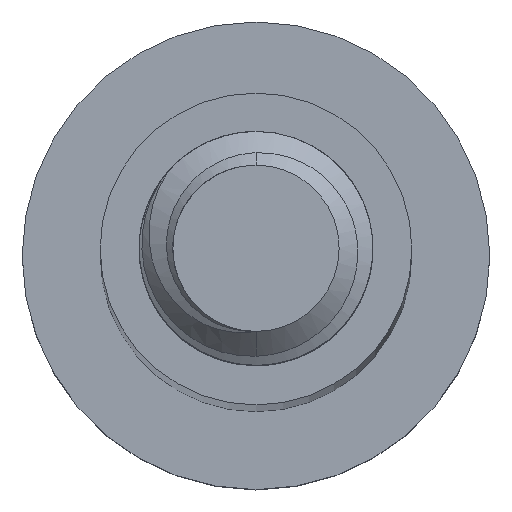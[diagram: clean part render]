
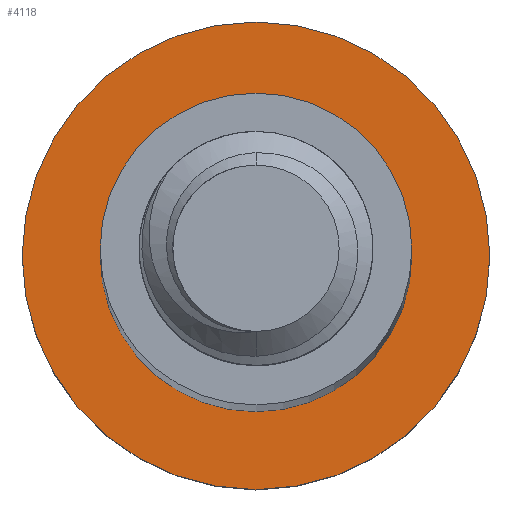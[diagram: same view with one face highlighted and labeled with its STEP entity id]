
A CAD part, top view. The second image highlights one B-rep face of the part: STEP entity #4118.
In plain terms, the highlighted planar face has unit normal (0, 0, 1).
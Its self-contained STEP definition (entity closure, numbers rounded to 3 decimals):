
#21 = ORIENTED_EDGE ( 'NONE', *, *, #2609, .F. ) ;
#125 = FACE_OUTER_BOUND ( 'NONE', #1379, .T. ) ;
#190 = CARTESIAN_POINT ( 'NONE',  ( 0., 0., -100. ) ) ;
#336 = EDGE_LOOP ( 'NONE', ( #1648, #3504 ) ) ;
#349 = CIRCLE ( 'NONE', #3377, 4. ) ;
#374 = VERTEX_POINT ( 'NONE', #4178 ) ;
#690 = CIRCLE ( 'NONE', #4142, 4. ) ;
#1051 = CARTESIAN_POINT ( 'NONE',  ( -4., 0., -100. ) ) ;
#1320 = CARTESIAN_POINT ( 'NONE',  ( 0., 0., -100. ) ) ;
#1379 = EDGE_LOOP ( 'NONE', ( #3566, #21 ) ) ;
#1510 = DIRECTION ( 'NONE',  ( 0., 0., -1. ) ) ;
#1599 = AXIS2_PLACEMENT_3D ( 'NONE', #2608, #3589, #4230 ) ;
#1648 = ORIENTED_EDGE ( 'NONE', *, *, #2273, .T. ) ;
#1720 = PLANE ( 'NONE',  #2359 ) ;
#1767 = FACE_BOUND ( 'NONE', #336, .T. ) ;
#1791 = DIRECTION ( 'NONE',  ( -1., 0., 0. ) ) ;
#1804 = CIRCLE ( 'NONE', #1599, 6. ) ;
#1964 = DIRECTION ( 'NONE',  ( -1., 0., 0. ) ) ;
#1983 = CARTESIAN_POINT ( 'NONE',  ( 0., 0., -100. ) ) ;
#2132 = VERTEX_POINT ( 'NONE', #4042 ) ;
#2268 = EDGE_CURVE ( 'NONE', #374, #3298, #690, .T. ) ;
#2273 = EDGE_CURVE ( 'NONE', #3298, #374, #349, .T. ) ;
#2359 = AXIS2_PLACEMENT_3D ( 'NONE', #4081, #2711, #1791 ) ;
#2591 = DIRECTION ( 'NONE',  ( 0., 0., -1. ) ) ;
#2608 = CARTESIAN_POINT ( 'NONE',  ( 0., 0., -100. ) ) ;
#2609 = EDGE_CURVE ( 'NONE', #4058, #2132, #3110, .T. ) ;
#2711 = DIRECTION ( 'NONE',  ( 0., 0., -1. ) ) ;
#2820 = DIRECTION ( 'NONE',  ( -1., 0., 0. ) ) ;
#2894 = DIRECTION ( 'NONE',  ( -1., 0., 0. ) ) ;
#3110 = CIRCLE ( 'NONE', #3662, 6. ) ;
#3298 = VERTEX_POINT ( 'NONE', #1051 ) ;
#3377 = AXIS2_PLACEMENT_3D ( 'NONE', #1983, #2591, #1964 ) ;
#3406 = CARTESIAN_POINT ( 'NONE',  ( -6., 0., -100. ) ) ;
#3504 = ORIENTED_EDGE ( 'NONE', *, *, #2268, .T. ) ;
#3566 = ORIENTED_EDGE ( 'NONE', *, *, #4222, .F. ) ;
#3589 = DIRECTION ( 'NONE',  ( 0., 0., -1. ) ) ;
#3662 = AXIS2_PLACEMENT_3D ( 'NONE', #190, #1510, #2820 ) ;
#4042 = CARTESIAN_POINT ( 'NONE',  ( 6., 0., -100. ) ) ;
#4058 = VERTEX_POINT ( 'NONE', #3406 ) ;
#4081 = CARTESIAN_POINT ( 'NONE',  ( 0., 0., -100. ) ) ;
#4118 = ADVANCED_FACE ( 'NONE', ( #1767, #125 ), #1720, .F. ) ;
#4142 = AXIS2_PLACEMENT_3D ( 'NONE', #1320, #4229, #2894 ) ;
#4178 = CARTESIAN_POINT ( 'NONE',  ( 4., 0., -100. ) ) ;
#4222 = EDGE_CURVE ( 'NONE', #2132, #4058, #1804, .T. ) ;
#4229 = DIRECTION ( 'NONE',  ( 0., 0., -1. ) ) ;
#4230 = DIRECTION ( 'NONE',  ( -1., 0., 0. ) ) ;
